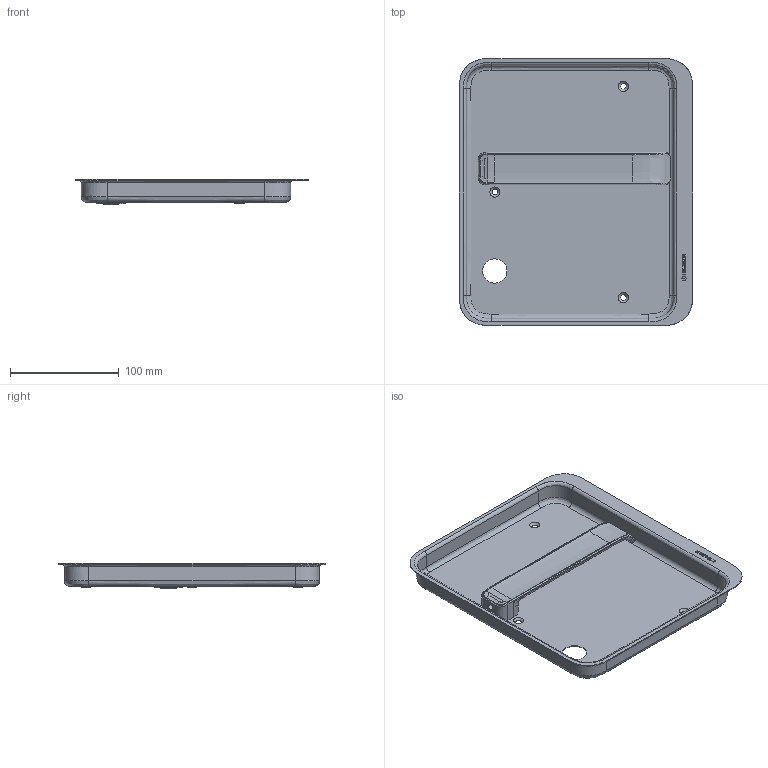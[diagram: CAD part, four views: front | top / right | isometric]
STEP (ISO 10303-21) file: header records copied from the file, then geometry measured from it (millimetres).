
FILE_DESCRIPTION(/* description */ (''),/* implementation_level */ '2;1');
FILE_NAME(/* name */ 'C:\ADSK_DMS_WS\Designs\Vorschläge\Loc Schalen\Muschel Serie 9\S9.20.D3\Heusser-Muschel S9.20.D3.294R.stp',/* time_stamp */ '2020-10-13T14:08:31+02:00',/* author */ ('gm'),/* organization */ (''),/* preprocessor_version */ 'ST-DEVELOPER v16.5',/* originating_system */ 'Autodesk Inventor 2017',/* authorisation */ '');
FILE_SCHEMA (('AUTOMOTIVE_DESIGN { 1 0 10303 214 3 1 1 }'));
Length unit declared in the file: millimetre
Products named in the file (1): S9.20.D3.0R
Bounding box: 214 x 245 x 23 mm (x, y, z)
Volume: 101277.8 mm3; surface area: 148463.3 mm2
Topology: 1 solids, 2 shells, 328 faces, 846 edges, 548 vertices
Faces by surface type: bspline 160, plane 131, cylinder 21, cone 16
Full cylindrical faces by diameter (mm): 1.7 x2, 14.2 x1, 16 x3, 18 x1, 19 x1, 19.1 x1, 22.3 x1, 23 x1, 23.2 x1, 24 x1, 25 x1, 26 x1, 28 x1
Entity records: 18354 total; most frequent: CARTESIAN_POINT 11076, ORIENTED_EDGE 1616, DIRECTION 959, EDGE_CURVE 808, VERTEX_POINT 542, LINE 411, VECTOR 411, EDGE_LOOP 406
